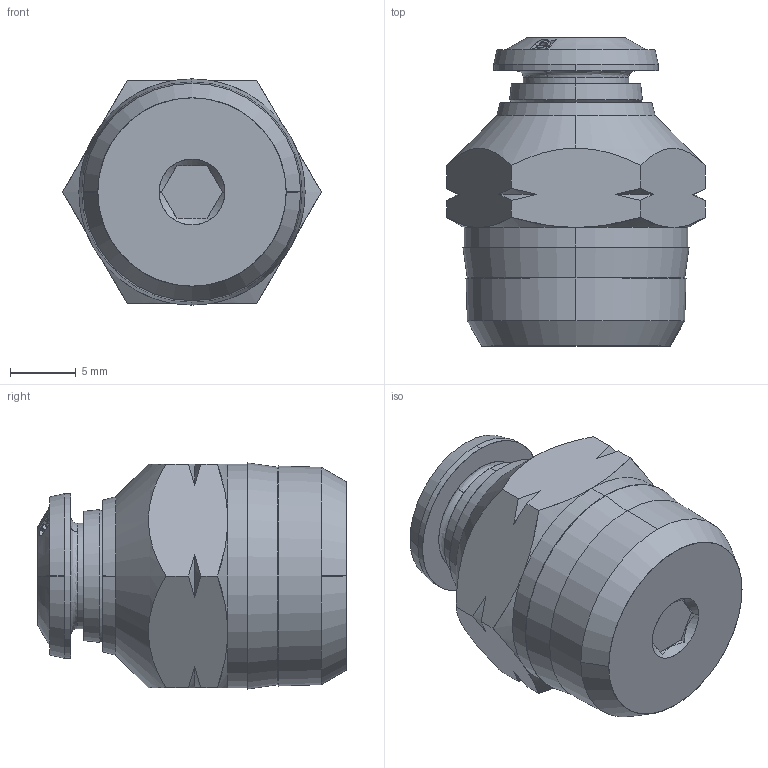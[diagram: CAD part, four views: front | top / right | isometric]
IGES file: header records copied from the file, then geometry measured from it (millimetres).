
Start section: SolidWorks IGES file using analytic representation for surfaces
Global section: file name: K:\Disegni Esecutivi\Alpha Technologies\Assiemi-87000\87000\87000_iges\8700000007A.IGS; native system: SolidWorks 2009; preprocessor: SolidWorks 2009; author: cad05; date: 091026.100354; units: millimetre
Bounding box: 19.63 x 23.4 x 17.17 mm (x, y, z)
Surface area: 1664.6 mm2 (no closed solid volume)
Topology: 0 solids, 0 shells, 148 faces, 1528 edges, 1528 vertices
Faces by surface type: bspline 80, revolution 68
